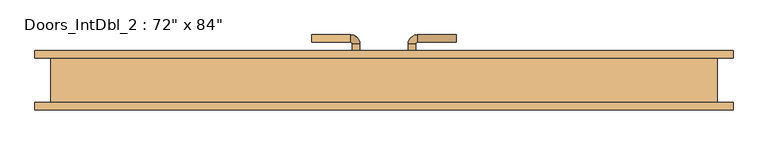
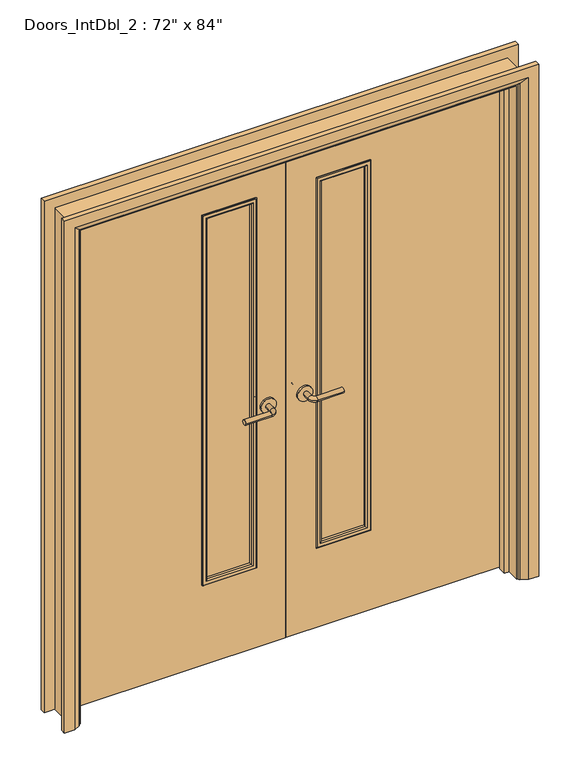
"""IFC4 building model written with IfcOpenShell, lengths in millimetres: door geometry."""

from ifc_helpers import new_model, si_unit, point, frame, frame_2d, origin, place, context, project, spatial, polyline, circle_curve, ellipse_curve, trimmed, segment, composite_curve, outline, extrude, faceted_brep, source, transform, mapped, element, save
from ifc_brep_helpers import plane_surface, cylinder_surface, revolved_surface, advanced_brep


def door_e444c484(model_context):
    return source(origin(), model_context, "Body", "SolidModel", [
        advanced_brep(
        [(-65.0, 20.0, 1007.0), (-85.0, 20.0, 1007.0), (-65.0, -10.0, 1007.0), (-85.0, -10.0, 1007.0), (-90.0, -15.0, 1007.0), (-90.0, -35.0, 1007.0), (-195.0, -35.0, 1007.0), (-195.0, -15.0, 1007.0)],
        [
            (0, 1, circle_curve(frame((-75.0, 20.0, 1007.0), z_axis=(0.0, 1.0, 0.0), x_axis=(-1.0, 0.0, 0.0)), 10.0)),
            (1, 0, circle_curve(frame((-75.0, 20.0, 1007.0), z_axis=(0.0, 1.0, 0.0), x_axis=(-1.0, 0.0, 0.0)), 10.0)),
            (0, 2),
            (2, 3, circle_curve(frame((-75.0, -10.0, 1007.0), z_axis=(0.0, 1.0, 0.0), x_axis=(-1.0, 0.0, 0.0)), 10.0)),
            (3, 1),
            (3, 2, circle_curve(frame((-75.0, -10.0, 1007.0), z_axis=(0.0, 1.0, 0.0), x_axis=(-1.0, 0.0, 0.0)), 10.0)),
            (4, 3, circle_curve(frame((-90.0, -10.0, 1007.0), z_axis=(0.0, 0.0, 1.0), x_axis=(1.0, 0.0, 0.0)), 5.0)),
            (2, 5, circle_curve(frame((-90.0, -10.0, 1007.0), z_axis=(0.0, 0.0, -1.0), x_axis=(1.0, 0.0, 0.0)), 25.0)),
            (5, 4, circle_curve(frame((-90.0, -25.0, 1007.0), z_axis=(1.0, 0.0, 0.0), x_axis=(0.0, 1.0, 0.0)), 10.0)),
            (4, 5, circle_curve(frame((-90.0, -25.0, 1007.0), z_axis=(1.0, 0.0, 0.0), x_axis=(0.0, 1.0, 0.0)), 10.0)),
            (6, 7, circle_curve(frame((-195.0, -25.0, 1007.0), z_axis=(-1.0, 0.0, 0.0), x_axis=(0.0, 1.0, 0.0)), 10.0)),
            (7, 6, circle_curve(frame((-195.0, -25.0, 1007.0), z_axis=(-1.0, 0.0, 0.0), x_axis=(0.0, 1.0, 0.0)), 10.0)),
            (5, 6),
            (7, 4),
        ],
        [
            plane_surface(frame((-75.0, 20.0, 1007.0), z_axis=(0.0, 1.0, 0.0), x_axis=(0.0, 0.0, 1.0))),
            cylinder_surface(frame((-75.0, 20.0, 1007.0), z_axis=(0.0, 1.0, 0.0), x_axis=(-1.0, 0.0, 0.0)), 10.0),
            revolved_surface(trimmed(ellipse_curve(frame((-75.0, -10.0, 1007.0), z_axis=(0.0, 1.0, 0.0), x_axis=(-1.0, 0.0, 0.0)), 10.0, 10.0), [point((-65.0, -10.0, 1007.0))], [point((-85.0, -10.0, 1007.0))], True, "CARTESIAN"), (-90.0, -10.0, 1007.0), (0.0, 0.0, -1.0)),
            revolved_surface(trimmed(ellipse_curve(frame((-75.0, -10.0, 1007.0), z_axis=(0.0, 1.0, 0.0), x_axis=(-1.0, 0.0, 0.0)), 10.0, 10.0), [point((-85.0, -10.0, 1007.0))], [point((-65.0, -10.0, 1007.0))], True, "CARTESIAN"), (-90.0, -10.0, 1007.0), (0.0, 0.0, -1.0)),
            plane_surface(frame((-195.0, -25.0, 1007.0), z_axis=(-1.0, 0.0, 0.0), x_axis=(0.0, 0.0, 1.0))),
            cylinder_surface(frame((-90.0, -25.0, 1007.0), z_axis=(1.0, 0.0, 0.0), x_axis=(0.0, 1.0, 0.0)), 10.0),
        ],
        [
            (0, [[1, 2]]),
            (1, [[-1, 3, 4, 5]]),
            (1, [[-2, -5, 6, -3]]),
            (2, [[7, -4, 8, 9]]),
            (3, [[-8, -6, -7, 10]]),
            (4, [[11, 12]]),
            (5, [[-9, 13, -12, 14]]),
            (5, [[-10, -14, -11, -13]]),
        ],
    ),
        extrude(outline(composite_curve([segment(trimmed(circle_curve(frame_2d((1007.0, -72.5)), 30.0), [point((1007.0, -42.5))], [point((1007.0, -102.5))], False, "CARTESIAN"), True, "CONTINUOUS"), segment(trimmed(circle_curve(frame_2d((1007.0, -72.5)), 30.0), [point((1007.0, -102.5))], [point((1007.0, -42.5))], False, "CARTESIAN"), True, "CONTINUOUS")], self_intersect=False)), frame((0.0, 20.0, 0.0), z_axis=(0.0, 1.0, 0.0), x_axis=(0.0, 0.0, 1.0)), (0.0, 0.0, 1.0), 8.0),
        advanced_brep(
        [(-65.0, 68.0, 1007.0), (-85.0, 68.0, 1007.0), (-85.0, 98.0, 1007.0), (-65.0, 98.0, 1007.0), (-90.0, 103.0, 1007.0), (-90.0, 123.0, 1007.0), (-195.0, 123.0, 1007.0), (-195.0, 103.0, 1007.0)],
        [
            (0, 1, circle_curve(frame((-75.0, 68.0, 1007.0), z_axis=(0.0, -1.0, 0.0), x_axis=(-1.0, 0.0, 0.0)), 10.0)),
            (1, 0, circle_curve(frame((-75.0, 68.0, 1007.0), z_axis=(0.0, -1.0, 0.0), x_axis=(-1.0, 0.0, 0.0)), 10.0)),
            (1, 2),
            (2, 3, circle_curve(frame((-75.0, 98.0, 1007.0), z_axis=(0.0, -1.0, 0.0), x_axis=(-1.0, 0.0, 0.0)), 10.0)),
            (3, 0),
            (3, 2, circle_curve(frame((-75.0, 98.0, 1007.0), z_axis=(0.0, -1.0, 0.0), x_axis=(-1.0, 0.0, 0.0)), 10.0)),
            (4, 5, circle_curve(frame((-90.0, 113.0, 1007.0), z_axis=(1.0, 0.0, 0.0), x_axis=(0.0, -1.0, 0.0)), 10.0)),
            (5, 3, circle_curve(frame((-90.0, 98.0, 1007.0), z_axis=(0.0, 0.0, -1.0), x_axis=(1.0, 0.0, 0.0)), 25.0)),
            (2, 4, circle_curve(frame((-90.0, 98.0, 1007.0), z_axis=(0.0, 0.0, 1.0), x_axis=(1.0, 0.0, 0.0)), 5.0)),
            (5, 4, circle_curve(frame((-90.0, 113.0, 1007.0), z_axis=(1.0, 0.0, 0.0), x_axis=(0.0, -1.0, 0.0)), 10.0)),
            (6, 7, circle_curve(frame((-195.0, 113.0, 1007.0), z_axis=(-1.0, 0.0, 0.0), x_axis=(0.0, -1.0, 0.0)), 10.0)),
            (7, 6, circle_curve(frame((-195.0, 113.0, 1007.0), z_axis=(-1.0, 0.0, 0.0), x_axis=(0.0, -1.0, 0.0)), 10.0)),
            (4, 7),
            (6, 5),
        ],
        [
            plane_surface(frame((-75.0, 68.0, 1007.0), z_axis=(0.0, -1.0, 0.0), x_axis=(0.0, 0.0, 1.0))),
            cylinder_surface(frame((-75.0, 68.0, 1007.0), z_axis=(0.0, -1.0, 0.0), x_axis=(-1.0, 0.0, 0.0)), 10.0),
            revolved_surface(trimmed(ellipse_curve(frame((-75.0, 98.0, 1007.0), z_axis=(0.0, 1.0, 0.0), x_axis=(-1.0, 0.0, 0.0)), 10.0, 10.0), [point((-65.0, 98.0, 1007.0))], [point((-85.0, 98.0, 1007.0))], True, "CARTESIAN"), (-90.0, 98.0, 1007.0), (0.0, 0.0, -1.0)),
            revolved_surface(trimmed(ellipse_curve(frame((-75.0, 98.0, 1007.0), z_axis=(0.0, 1.0, 0.0), x_axis=(-1.0, 0.0, 0.0)), 10.0, 10.0), [point((-85.0, 98.0, 1007.0))], [point((-65.0, 98.0, 1007.0))], True, "CARTESIAN"), (-90.0, 98.0, 1007.0), (0.0, 0.0, -1.0)),
            plane_surface(frame((-195.0, 113.0, 1007.0), z_axis=(-1.0, 0.0, 0.0), x_axis=(0.0, 0.0, 1.0))),
            cylinder_surface(frame((-90.0, 113.0, 1007.0), z_axis=(1.0, 0.0, 0.0), x_axis=(0.0, -1.0, 0.0)), 10.0),
        ],
        [
            (0, [[1, 2]]),
            (1, [[3, 4, 5, -2]]),
            (1, [[-5, 6, -3, -1]]),
            (2, [[7, 8, -4, 9]]),
            (3, [[10, -9, -6, -8]]),
            (4, [[11, 12]]),
            (5, [[13, -11, 14, -7]]),
            (5, [[-14, -12, -13, -10]]),
        ],
    ),
        extrude(outline(composite_curve([segment(trimmed(circle_curve(frame_2d((1007.0, -72.5)), 30.0), [point((1007.0, -42.5))], [point((1007.0, -102.5))], False, "CARTESIAN"), True, "CONTINUOUS"), segment(trimmed(circle_curve(frame_2d((1007.0, -72.5)), 30.0), [point((1007.0, -102.5))], [point((1007.0, -42.5))], False, "CARTESIAN"), True, "CONTINUOUS")], self_intersect=False)), frame((0.0, 60.0, 0.0), z_axis=(0.0, 1.0, 0.0), x_axis=(0.0, 0.0, 1.0)), (0.0, 0.0, 1.0), 8.0),
        advanced_brep(
        [(65.0, 20.0, 1007.0), (85.0, 20.0, 1007.0), (85.0, -10.0, 1007.0), (65.0, -10.0, 1007.0), (90.0, -15.0, 1007.0), (90.0, -35.0, 1007.0), (195.0, -35.0, 1007.0), (195.0, -15.0, 1007.0)],
        [
            (0, 1, circle_curve(frame((75.0, 20.0, 1007.0), z_axis=(0.0, 1.0, 0.0), x_axis=(1.0, 0.0, 0.0)), 10.0)),
            (1, 0, circle_curve(frame((75.0, 20.0, 1007.0), z_axis=(0.0, 1.0, 0.0), x_axis=(1.0, 0.0, 0.0)), 10.0)),
            (1, 2),
            (2, 3, circle_curve(frame((75.0, -10.0, 1007.0), z_axis=(0.0, 1.0, 0.0), x_axis=(1.0, 0.0, 0.0)), 10.0)),
            (3, 0),
            (3, 2, circle_curve(frame((75.0, -10.0, 1007.0), z_axis=(0.0, 1.0, 0.0), x_axis=(1.0, 0.0, 0.0)), 10.0)),
            (4, 5, circle_curve(frame((90.0, -25.0, 1007.0), z_axis=(-1.0, 0.0, 0.0), x_axis=(0.0, 1.0, 0.0)), 10.0)),
            (5, 3, circle_curve(frame((90.0, -10.0, 1007.0), z_axis=(0.0, 0.0, -1.0), x_axis=(-1.0, 0.0, 0.0)), 25.0)),
            (2, 4, circle_curve(frame((90.0, -10.0, 1007.0), z_axis=(0.0, 0.0, 1.0), x_axis=(-1.0, 0.0, 0.0)), 5.0)),
            (5, 4, circle_curve(frame((90.0, -25.0, 1007.0), z_axis=(-1.0, 0.0, 0.0), x_axis=(0.0, 1.0, 0.0)), 10.0)),
            (6, 7, circle_curve(frame((195.0, -25.0, 1007.0), z_axis=(1.0, 0.0, 0.0), x_axis=(0.0, 1.0, 0.0)), 10.0)),
            (7, 6, circle_curve(frame((195.0, -25.0, 1007.0), z_axis=(1.0, 0.0, 0.0), x_axis=(0.0, 1.0, 0.0)), 10.0)),
            (4, 7),
            (6, 5),
        ],
        [
            plane_surface(frame((75.0, 20.0, 1007.0), z_axis=(0.0, 1.0, 0.0), x_axis=(0.0, 0.0, 1.0))),
            cylinder_surface(frame((75.0, 20.0, 1007.0), z_axis=(0.0, 1.0, 0.0), x_axis=(1.0, 0.0, 0.0)), 10.0),
            revolved_surface(trimmed(ellipse_curve(frame((75.0, -10.0, 1007.0), z_axis=(0.0, -1.0, 0.0), x_axis=(1.0, 0.0, 0.0)), 10.0, 10.0), [point((65.0, -10.0, 1007.0))], [point((85.0, -10.0, 1007.0))], True, "CARTESIAN"), (90.0, -10.0, 1007.0), (0.0, 0.0, -1.0)),
            revolved_surface(trimmed(ellipse_curve(frame((75.0, -10.0, 1007.0), z_axis=(0.0, -1.0, 0.0), x_axis=(1.0, 0.0, 0.0)), 10.0, 10.0), [point((85.0, -10.0, 1007.0))], [point((65.0, -10.0, 1007.0))], True, "CARTESIAN"), (90.0, -10.0, 1007.0), (0.0, 0.0, -1.0)),
            plane_surface(frame((195.0, -25.0, 1007.0), z_axis=(1.0, 0.0, 0.0), x_axis=(0.0, 0.0, 1.0))),
            cylinder_surface(frame((90.0, -25.0, 1007.0), z_axis=(-1.0, 0.0, 0.0), x_axis=(0.0, 1.0, 0.0)), 10.0),
        ],
        [
            (0, [[1, 2]]),
            (1, [[3, 4, 5, -2]]),
            (1, [[-5, 6, -3, -1]]),
            (2, [[7, 8, -4, 9]]),
            (3, [[10, -9, -6, -8]]),
            (4, [[11, 12]]),
            (5, [[13, -11, 14, -7]]),
            (5, [[-14, -12, -13, -10]]),
        ],
    ),
        extrude(outline(composite_curve([segment(trimmed(circle_curve(frame_2d((1007.0, 72.5)), 30.0), [point((1007.0, 42.5))], [point((1007.0, 102.5))], False, "CARTESIAN"), True, "CONTINUOUS"), segment(trimmed(circle_curve(frame_2d((1007.0, 72.5)), 30.0), [point((1007.0, 102.5))], [point((1007.0, 42.5))], False, "CARTESIAN"), True, "CONTINUOUS")], self_intersect=False)), frame((0.0, 20.0, 0.0), z_axis=(0.0, 1.0, 0.0), x_axis=(0.0, 0.0, 1.0)), (0.0, 0.0, 1.0), 8.0),
        advanced_brep(
        [(65.0, 68.0, 1007.0), (85.0, 68.0, 1007.0), (65.0, 98.0, 1007.0), (85.0, 98.0, 1007.0), (90.0, 103.0, 1007.0), (90.0, 123.0, 1007.0), (195.0, 123.0, 1007.0), (195.0, 103.0, 1007.0)],
        [
            (0, 1, circle_curve(frame((75.0, 68.0, 1007.0), z_axis=(0.0, -1.0, 0.0), x_axis=(1.0, 0.0, 0.0)), 10.0)),
            (1, 0, circle_curve(frame((75.0, 68.0, 1007.0), z_axis=(0.0, -1.0, 0.0), x_axis=(1.0, 0.0, 0.0)), 10.0)),
            (0, 2),
            (2, 3, circle_curve(frame((75.0, 98.0, 1007.0), z_axis=(0.0, -1.0, 0.0), x_axis=(1.0, 0.0, 0.0)), 10.0)),
            (3, 1),
            (3, 2, circle_curve(frame((75.0, 98.0, 1007.0), z_axis=(0.0, -1.0, 0.0), x_axis=(1.0, 0.0, 0.0)), 10.0)),
            (4, 3, circle_curve(frame((90.0, 98.0, 1007.0), z_axis=(0.0, 0.0, 1.0), x_axis=(-1.0, 0.0, 0.0)), 5.0)),
            (2, 5, circle_curve(frame((90.0, 98.0, 1007.0), z_axis=(0.0, 0.0, -1.0), x_axis=(-1.0, 0.0, 0.0)), 25.0)),
            (5, 4, circle_curve(frame((90.0, 113.0, 1007.0), z_axis=(-1.0, 0.0, 0.0), x_axis=(0.0, -1.0, 0.0)), 10.0)),
            (4, 5, circle_curve(frame((90.0, 113.0, 1007.0), z_axis=(-1.0, 0.0, 0.0), x_axis=(0.0, -1.0, 0.0)), 10.0)),
            (6, 7, circle_curve(frame((195.0, 113.0, 1007.0), z_axis=(1.0, 0.0, 0.0), x_axis=(0.0, -1.0, 0.0)), 10.0)),
            (7, 6, circle_curve(frame((195.0, 113.0, 1007.0), z_axis=(1.0, 0.0, 0.0), x_axis=(0.0, -1.0, 0.0)), 10.0)),
            (5, 6),
            (7, 4),
        ],
        [
            plane_surface(frame((75.0, 68.0, 1007.0), z_axis=(0.0, -1.0, 0.0), x_axis=(0.0, 0.0, 1.0))),
            cylinder_surface(frame((75.0, 68.0, 1007.0), z_axis=(0.0, -1.0, 0.0), x_axis=(1.0, 0.0, 0.0)), 10.0),
            revolved_surface(trimmed(ellipse_curve(frame((75.0, 98.0, 1007.0), z_axis=(0.0, -1.0, 0.0), x_axis=(1.0, 0.0, 0.0)), 10.0, 10.0), [point((65.0, 98.0, 1007.0))], [point((85.0, 98.0, 1007.0))], True, "CARTESIAN"), (90.0, 98.0, 1007.0), (0.0, 0.0, -1.0)),
            revolved_surface(trimmed(ellipse_curve(frame((75.0, 98.0, 1007.0), z_axis=(0.0, -1.0, 0.0), x_axis=(1.0, 0.0, 0.0)), 10.0, 10.0), [point((85.0, 98.0, 1007.0))], [point((65.0, 98.0, 1007.0))], True, "CARTESIAN"), (90.0, 98.0, 1007.0), (0.0, 0.0, -1.0)),
            plane_surface(frame((195.0, 113.0, 1007.0), z_axis=(1.0, 0.0, 0.0), x_axis=(0.0, 0.0, 1.0))),
            cylinder_surface(frame((90.0, 113.0, 1007.0), z_axis=(-1.0, 0.0, 0.0), x_axis=(0.0, -1.0, 0.0)), 10.0),
        ],
        [
            (0, [[1, 2]]),
            (1, [[-1, 3, 4, 5]]),
            (1, [[-2, -5, 6, -3]]),
            (2, [[7, -4, 8, 9]]),
            (3, [[-8, -6, -7, 10]]),
            (4, [[11, 12]]),
            (5, [[-9, 13, -12, 14]]),
            (5, [[-10, -14, -11, -13]]),
        ],
    ),
        extrude(outline(composite_curve([segment(trimmed(circle_curve(frame_2d((1007.0, 72.5)), 30.0), [point((1007.0, 42.5))], [point((1007.0, 102.5))], False, "CARTESIAN"), True, "CONTINUOUS"), segment(trimmed(circle_curve(frame_2d((1007.0, 72.5)), 30.0), [point((1007.0, 102.5))], [point((1007.0, 42.5))], False, "CARTESIAN"), True, "CONTINUOUS")], self_intersect=False)), frame((0.0, 60.0, 0.0), z_axis=(0.0, 1.0, 0.0), x_axis=(0.0, 0.0, 1.0)), (0.0, 0.0, 1.0), 8.0),
        advanced_brep(
        [(-940.0, -80.0, 0.0), (-940.0, -60.0, 0.0), (-870.0, -60.0, 0.0), (-874.0, -66.0, 0.0), (-900.0, -80.0, 0.0), (-940.0, -80.0, 2145.0), (-940.0, -60.0, 2145.0), (940.0, -60.0, 2145.0), (940.0, -60.0, 0.0), (870.0, -60.0, 0.0), (870.0, -60.0, 2075.0), (-870.0, -60.0, 2075.0), (-874.0, -66.0, 2079.0), (-900.0, -80.0, 2105.0), (900.0, -80.0, 2105.0), (900.0, -80.0, 0.0), (940.0, -80.0, 0.0), (940.0, -80.0, 2145.0), (874.0, -66.0, 0.0), (874.0, -66.0, 2079.0)],
        [
            (0, 1),
            (1, 2),
            (2, 3, circle_curve(frame((-878.0, -59.0, 0.0), z_axis=(0.0, 0.0, -1.0), x_axis=(-1.0, 0.0, 0.0)), 8.0622577)),
            (3, 4),
            (4, 0),
            (0, 5),
            (5, 6),
            (6, 1),
            (6, 7),
            (7, 8),
            (8, 9),
            (9, 10),
            (10, 11),
            (11, 2),
            (11, 12, ellipse_curve(frame((-878.0, -59.0, 2083.0), z_axis=(-0.7071067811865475, 0.0, -0.7071067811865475), x_axis=(0.7071067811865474, 0.0, -0.7071067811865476)), 11.4017543, 8.0622577)),
            (12, 3),
            (12, 13),
            (13, 4),
            (13, 14),
            (14, 15),
            (15, 16),
            (16, 17),
            (17, 5),
            (7, 17),
            (16, 8),
            (15, 18),
            (18, 9, circle_curve(frame((878.0, -59.0, 0.0), z_axis=(0.0, 0.0, -1.0), x_axis=(1.0, 0.0, 0.0)), 8.0622577)),
            (19, 10, ellipse_curve(frame((878.0, -59.0, 2083.0), z_axis=(0.7071067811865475, 0.0, -0.7071067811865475), x_axis=(0.7071067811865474, 0.0, 0.7071067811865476)), 11.4017543, 8.0622577)),
            (18, 19),
            (14, 19),
            (19, 12),
        ],
        [
            plane_surface(frame((-870.0, -60.0, 0.0), z_axis=(0.0, 0.0, -1.0), x_axis=(0.0, -1.0, 0.0))),
            plane_surface(frame((-940.0, -80.0, 0.0), z_axis=(-1.0, 0.0, 0.0), x_axis=(0.0, 0.0, 1.0))),
            plane_surface(frame((-940.0, -60.0, 0.0), z_axis=(0.0, 1.0, 0.0), x_axis=(0.0, 0.0, 1.0))),
            cylinder_surface(frame((-878.0, -59.0, 0.0), z_axis=(0.0, 0.0, -1.0), x_axis=(-1.0, 0.0, 0.0)), 8.0622577),
            plane_surface(frame((-874.0, -66.0, 0.0), z_axis=(0.4740998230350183, -0.8804710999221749, 0.0), x_axis=(0.0, 0.0, 1.0))),
            plane_surface(frame((-900.0, -80.0, 0.0), z_axis=(0.0, -1.0, 0.0), x_axis=(0.0, 0.0, 1.0))),
            plane_surface(frame((940.0, -80.0, 2145.0), z_axis=(1.0, 0.0, 0.0), x_axis=(0.0, 0.0, -1.0))),
            plane_surface(frame((870.0, -60.0, 0.0), z_axis=(0.0, 0.0, -1.0), x_axis=(0.0, -1.0, 0.0))),
            cylinder_surface(frame((878.0, -59.0, 2075.0), z_axis=(0.0, 0.0, 1.0), x_axis=(1.0, 0.0, 0.0)), 8.0622577),
            plane_surface(frame((874.0, -66.0, 2079.0), z_axis=(-0.4740998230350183, -0.8804710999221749, 0.0), x_axis=(0.0, 0.0, -1.0))),
            plane_surface(frame((-940.0, -80.0, 2145.0), z_axis=(0.0, 0.0, 1.0), x_axis=(1.0, 0.0, 0.0))),
            cylinder_surface(frame((-870.0, -59.0, 2083.0), z_axis=(-1.0, 0.0, 0.0), x_axis=(0.0, 0.0, 1.0)), 8.0622577),
            plane_surface(frame((-874.0, -66.0, 2079.0), z_axis=(0.0, -0.8804710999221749, -0.4740998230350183), x_axis=(1.0, 0.0, 0.0))),
        ],
        [
            (0, [[1, 2, 3, 4, 5]]),
            (1, [[-1, 6, 7, 8]]),
            (2, [[-2, -8, 9, 10, 11, 12, 13, 14]]),
            (3, [[-3, -14, 15, 16]]),
            (4, [[-4, -16, 17, 18]]),
            (5, [[-5, -18, 19, 20, 21, 22, 23, -6]]),
            (6, [[24, -22, 25, -10]]),
            (7, [[-21, 26, 27, -11, -25]]),
            (8, [[28, -12, -27, 29]]),
            (9, [[30, -29, -26, -20]]),
            (10, [[-7, -23, -24, -9]]),
            (11, [[-15, -13, -28, 31]]),
            (12, [[-17, -31, -30, -19]]),
        ],
    ),
        advanced_brep(
        [(940.0, 80.0, 0.0), (940.0, 60.0, 0.0), (870.0, 60.0, 0.0), (874.0, 66.0, 0.0), (900.0, 80.0, 0.0), (940.0, 80.0, 2145.0), (940.0, 60.0, 2145.0), (-940.0, 60.0, 2145.0), (-940.0, 60.0, 0.0), (-870.0, 60.0, 0.0), (-870.0, 60.0, 2075.0), (870.0, 60.0, 2075.0), (874.0, 66.0, 2079.0), (900.0, 80.0, 2105.0), (-900.0, 80.0, 2105.0), (-900.0, 80.0, 0.0), (-940.0, 80.0, 0.0), (-940.0, 80.0, 2145.0), (-874.0, 66.0, 0.0), (-874.0, 66.0, 2079.0)],
        [
            (0, 1),
            (1, 2),
            (2, 3, circle_curve(frame((878.0, 59.0, 0.0), z_axis=(0.0, 0.0, -1.0), x_axis=(1.0, 0.0, 0.0)), 8.0622577)),
            (3, 4),
            (4, 0),
            (0, 5),
            (5, 6),
            (6, 1),
            (6, 7),
            (7, 8),
            (8, 9),
            (9, 10),
            (10, 11),
            (11, 2),
            (11, 12, ellipse_curve(frame((878.0, 59.0, 2083.0), z_axis=(0.7071067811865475, 0.0, -0.7071067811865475), x_axis=(-0.7071067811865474, 0.0, -0.7071067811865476)), 11.4017543, 8.0622577)),
            (12, 3),
            (12, 13),
            (13, 4),
            (13, 14),
            (14, 15),
            (15, 16),
            (16, 17),
            (17, 5),
            (7, 17),
            (16, 8),
            (15, 18),
            (18, 9, circle_curve(frame((-878.0, 59.0, 0.0), z_axis=(0.0, 0.0, -1.0), x_axis=(-1.0, 0.0, 0.0)), 8.0622577)),
            (19, 10, ellipse_curve(frame((-878.0, 59.0, 2083.0), z_axis=(-0.7071067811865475, 0.0, -0.7071067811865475), x_axis=(-0.7071067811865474, 0.0, 0.7071067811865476)), 11.4017543, 8.0622577)),
            (18, 19),
            (14, 19),
            (19, 12),
        ],
        [
            plane_surface(frame((870.0, 60.0, 0.0), z_axis=(0.0, 0.0, -1.0), x_axis=(0.0, -1.0, 0.0))),
            plane_surface(frame((940.0, 80.0, 0.0), z_axis=(1.0, 0.0, 0.0), x_axis=(0.0, 0.0, 1.0))),
            plane_surface(frame((940.0, 60.0, 0.0), z_axis=(0.0, -1.0, 0.0), x_axis=(0.0, 0.0, 1.0))),
            cylinder_surface(frame((878.0, 59.0, 0.0), z_axis=(0.0, 0.0, -1.0), x_axis=(1.0, 0.0, 0.0)), 8.0622577),
            plane_surface(frame((874.0, 66.0, 0.0), z_axis=(-0.4740998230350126, 0.8804710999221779, 0.0), x_axis=(0.0, 0.0, 1.0))),
            plane_surface(frame((900.0, 80.0, 0.0), z_axis=(0.0, 1.0, 0.0), x_axis=(0.0, 0.0, 1.0))),
            plane_surface(frame((-940.0, 80.0, 2145.0), z_axis=(-1.0, 0.0, 0.0), x_axis=(0.0, 0.0, -1.0))),
            plane_surface(frame((-870.0, 60.0, 0.0), z_axis=(0.0, 0.0, -1.0), x_axis=(0.0, -1.0, 0.0))),
            cylinder_surface(frame((-878.0, 59.0, 2075.0), z_axis=(0.0, 0.0, 1.0), x_axis=(-1.0, 0.0, 0.0)), 8.0622577),
            plane_surface(frame((-874.0, 66.0, 2079.0), z_axis=(0.4740998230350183, 0.8804710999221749, 0.0), x_axis=(0.0, 0.0, -1.0))),
            plane_surface(frame((940.0, 80.0, 2145.0), z_axis=(0.0, 0.0, 1.0), x_axis=(-1.0, 0.0, 0.0))),
            cylinder_surface(frame((870.0, 59.0, 2083.0), z_axis=(1.0, 0.0, 0.0), x_axis=(0.0, 0.0, 1.0)), 8.0622577),
            plane_surface(frame((874.0, 66.0, 2079.0), z_axis=(0.0, 0.8804710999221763, -0.4740998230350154), x_axis=(-1.0, 0.0, 0.0))),
        ],
        [
            (0, [[1, 2, 3, 4, 5]]),
            (1, [[-1, 6, 7, 8]]),
            (2, [[-2, -8, 9, 10, 11, 12, 13, 14]]),
            (3, [[-3, -14, 15, 16]]),
            (4, [[-4, -16, 17, 18]]),
            (5, [[-5, -18, 19, 20, 21, 22, 23, -6]]),
            (6, [[24, -22, 25, -10]]),
            (7, [[-21, 26, 27, -11, -25]]),
            (8, [[28, -12, -27, 29]]),
            (9, [[30, -29, -26, -20]]),
            (10, [[-7, -23, -24, -9]]),
            (11, [[-15, -13, -28, 31]]),
            (12, [[-17, -31, -30, -19]]),
        ],
    ),
        faceted_brep([(-846.0, 25.0, 0.0), (-846.0, -7.0, 0.0), (-865.0, -7.0, 0.0), (-865.0, 25.0, 0.0), (-846.0, 25.0, 2051.0), (-846.0, -7.0, 2051.0), (-865.0, -7.0, 2070.0), (-865.0, 25.0, 2070.0), (846.0, 25.0, 0.0), (865.0, 25.0, 0.0), (865.0, -7.0, 0.0), (846.0, -7.0, 0.0), (846.0, 25.0, 2051.0), (865.0, 25.0, 2070.0), (865.0, -7.0, 2070.0), (846.0, -7.0, 2051.0)], [[[0, 1, 2, 3]], [[1, 0, 4, 5]], [[2, 1, 5, 6]], [[3, 2, 6, 7]], [[0, 3, 7, 4]], [[8, 9, 10, 11]], [[12, 13, 9, 8]], [[13, 14, 10, 9]], [[14, 15, 11, 10]], [[15, 12, 8, 11]], [[5, 4, 12, 15]], [[6, 5, 15, 14]], [[7, 6, 14, 13]], [[4, 7, 13, 12]]]),
        extrude(outline(polyline([(2102.0, -897.0), (0.0, -897.0), (0.0, -865.0), (2070.0, -865.0), (2070.0, 865.0), (0.0, 865.0), (0.0, 897.0), (2102.0, 897.0), (2102.0, -897.0)])), frame((0.0, -60.0, 0.0), z_axis=(0.0, 1.0, 0.0), x_axis=(0.0, 0.0, 1.0)), (0.0, 0.0, 1.0), 120.0),
        extrude(outline(polyline([(326.5, 38.0), (126.5, 38.0), (126.5, 50.0), (326.5, 50.0), (326.5, 38.0)])), frame((0.0, 0.0, 350.0), z_axis=(0.0, 0.0, 1.0), x_axis=(1.0, 0.0, 0.0)), (0.0, 0.0, 1.0), 1535.0),
        extrude(outline(polyline([(-126.5, 38.0), (-326.5, 38.0), (-326.5, 50.0), (-126.5, 50.0), (-126.5, 38.0)])), frame((0.0, 0.0, 350.0), z_axis=(0.0, 0.0, 1.0), x_axis=(1.0, 0.0, 0.0)), (0.0, 0.0, 1.0), 1535.0),
        extrude(outline(polyline([(5.753223, -862.0), (5.753223, -1.5), (2067.0, -1.5), (2067.0, -862.0), (5.753223, -862.0)]), holes=[polyline([(1885.0, -326.5), (1885.0, -126.5), (350.0, -126.5), (350.0, -326.5), (1885.0, -326.5)])]), frame((0.0, 28.0, 0.0), z_axis=(0.0, 1.0, 0.0), x_axis=(0.0, 0.0, 1.0)), (0.0, 0.0, 1.0), 32.0),
        extrude(outline(polyline([(5.753223, 862.0), (2067.0, 862.0), (2067.0, 1.5), (5.753223, 1.5), (5.753223, 862.0)]), holes=[polyline([(1885.0, 126.5), (1885.0, 326.5), (350.0, 326.5), (350.0, 126.5), (1885.0, 126.5)])]), frame((0.0, 28.0, 0.0), z_axis=(0.0, 1.0, 0.0), x_axis=(0.0, 0.0, 1.0)), (0.0, 0.0, 1.0), 32.0),
        advanced_brep(
        [(326.5, 38.0, 1885.0), (326.5, 28.0, 1885.0), (326.5, 28.0, 350.0), (326.5, 38.0, 350.0), (314.5, 27.0, 1873.0), (314.5, 38.0, 1873.0), (314.5, 38.0, 362.0), (314.5, 27.0, 362.0), (319.5, 22.0, 1878.0), (319.5, 22.0, 357.0), (334.5, 24.0, 1893.0), (332.5, 22.0, 1891.0), (332.5, 22.0, 344.0), (334.5, 24.0, 342.0), (334.5, 28.0, 1893.0), (334.5, 28.0, 342.0), (126.5, 28.0, 350.0), (126.5, 38.0, 350.0), (138.5, 38.0, 362.0), (138.5, 27.0, 362.0), (133.5, 22.0, 357.0), (120.5, 22.0, 344.0), (118.5, 24.0, 342.0), (118.5, 28.0, 342.0), (126.5, 28.0, 1885.0), (126.5, 38.0, 1885.0), (138.5, 38.0, 1873.0), (138.5, 27.0, 1873.0), (133.5, 22.0, 1878.0), (120.5, 22.0, 1891.0), (118.5, 24.0, 1893.0), (118.5, 28.0, 1893.0)],
        [
            (0, 1),
            (1, 2),
            (2, 3),
            (3, 0),
            (4, 5),
            (5, 6),
            (6, 7),
            (7, 4),
            (8, 4, ellipse_curve(frame((319.5, 27.0, 1878.0), z_axis=(0.7071067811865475, 0.0, -0.7071067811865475), x_axis=(0.7071067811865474, 0.0, 0.7071067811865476)), 7.0710678, 5.0)),
            (7, 9, ellipse_curve(frame((319.5, 27.0, 357.0), z_axis=(0.7071067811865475, 0.0, 0.7071067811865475), x_axis=(-0.7071067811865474, 0.0, 0.7071067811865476)), 7.0710678, 5.0)),
            (9, 8),
            (10, 11, ellipse_curve(frame((332.5, 24.0, 1891.0), z_axis=(0.7071067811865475, 0.0, -0.7071067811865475), x_axis=(0.7071067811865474, 0.0, 0.7071067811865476)), 2.8284271, 2.0)),
            (11, 12),
            (12, 13, ellipse_curve(frame((332.5, 24.0, 344.0), z_axis=(0.7071067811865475, 0.0, 0.7071067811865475), x_axis=(-0.7071067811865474, 0.0, 0.7071067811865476)), 2.8284271, 2.0)),
            (13, 10),
            (14, 10),
            (13, 15),
            (15, 14),
            (2, 16),
            (16, 17),
            (17, 3),
            (6, 18),
            (18, 19),
            (19, 7),
            (19, 20, ellipse_curve(frame((133.5, 27.0, 357.0), z_axis=(0.7071067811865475, 0.0, -0.7071067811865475), x_axis=(0.7071067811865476, 0.0, 0.7071067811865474)), 7.0710678, 5.0)),
            (20, 9),
            (12, 21),
            (21, 22, ellipse_curve(frame((120.5, 24.0, 344.0), z_axis=(0.7071067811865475, 0.0, -0.7071067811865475), x_axis=(0.7071067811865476, 0.0, 0.7071067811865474)), 2.8284271, 2.0)),
            (22, 13),
            (22, 23),
            (23, 15),
            (16, 24),
            (24, 25),
            (25, 17),
            (18, 26),
            (26, 27),
            (27, 19),
            (27, 28, ellipse_curve(frame((133.5, 27.0, 1878.0), z_axis=(-0.7071067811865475, 0.0, -0.7071067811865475), x_axis=(0.7071067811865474, 0.0, -0.7071067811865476)), 7.0710678, 5.0)),
            (28, 20),
            (21, 29),
            (29, 30, ellipse_curve(frame((120.5, 24.0, 1891.0), z_axis=(-0.7071067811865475, 0.0, -0.7071067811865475), x_axis=(0.7071067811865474, 0.0, -0.7071067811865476)), 2.8284271, 2.0)),
            (30, 22),
            (30, 31),
            (31, 23),
            (31, 14),
            (1, 24),
            (0, 25),
            (5, 26),
            (4, 27),
            (8, 28),
            (11, 29),
            (10, 30),
        ],
        [
            plane_surface(frame((326.5, 28.0, 1885.0), z_axis=(1.0, 0.0, 0.0), x_axis=(0.0, 0.0, -1.0))),
            plane_surface(frame((314.5, 38.0, 1873.0), z_axis=(-1.0, 0.0, 0.0), x_axis=(0.0, 0.0, -1.0))),
            cylinder_surface(frame((319.5, 27.0, 1885.0), z_axis=(0.0, 0.0, 1.0), x_axis=(1.0, 0.0, 0.0)), 5.0),
            cylinder_surface(frame((332.5, 24.0, 1885.0), z_axis=(0.0, 0.0, 1.0), x_axis=(1.0, 0.0, 0.0)), 2.0),
            plane_surface(frame((334.5, 24.0, 1893.0), z_axis=(1.0, 0.0, 0.0), x_axis=(0.0, 0.0, -1.0))),
            plane_surface(frame((326.5, 28.0, 350.0), z_axis=(0.0, 0.0, -1.0), x_axis=(-1.0, 0.0, 0.0))),
            plane_surface(frame((314.5, 38.0, 362.0), z_axis=(0.0, 0.0, 1.0), x_axis=(-1.0, 0.0, 0.0))),
            cylinder_surface(frame((326.5, 27.0, 357.0), z_axis=(1.0, 0.0, 0.0), x_axis=(0.0, 0.0, -1.0)), 5.0),
            cylinder_surface(frame((326.5, 24.0, 344.0), z_axis=(1.0, 0.0, 0.0), x_axis=(0.0, 0.0, -1.0)), 2.0),
            plane_surface(frame((334.5, 24.0, 342.0), z_axis=(0.0, 0.0, -1.0), x_axis=(-1.0, 0.0, 0.0))),
            plane_surface(frame((126.5, 28.0, 350.0), z_axis=(-1.0, 0.0, 0.0), x_axis=(0.0, 0.0, 1.0))),
            plane_surface(frame((138.5, 38.0, 362.0), z_axis=(1.0, 0.0, 0.0), x_axis=(0.0, 0.0, 1.0))),
            cylinder_surface(frame((133.5, 27.0, 350.0), z_axis=(0.0, 0.0, -1.0), x_axis=(-1.0, 0.0, 0.0)), 5.0),
            cylinder_surface(frame((120.5, 24.0, 350.0), z_axis=(0.0, 0.0, -1.0), x_axis=(-1.0, 0.0, 0.0)), 2.0),
            plane_surface(frame((118.5, 24.0, 342.0), z_axis=(-1.0, 0.0, 0.0), x_axis=(0.0, 0.0, 1.0))),
            plane_surface(frame((118.5, 28.0, 1893.0), z_axis=(0.0, 1.0, 0.0), x_axis=(1.0, 0.0, 0.0))),
            plane_surface(frame((126.5, 28.0, 1885.0), z_axis=(0.0, 0.0, 1.0), x_axis=(1.0, 0.0, 0.0))),
            plane_surface(frame((126.5, 38.0, 1885.0), z_axis=(0.0, 1.0, 0.0), x_axis=(1.0, 0.0, 0.0))),
            plane_surface(frame((138.5, 38.0, 1873.0), z_axis=(0.0, 0.0, -1.0), x_axis=(1.0, 0.0, 0.0))),
            cylinder_surface(frame((126.5, 27.0, 1878.0), z_axis=(-1.0, 0.0, 0.0), x_axis=(0.0, 0.0, 1.0)), 5.0),
            plane_surface(frame((133.5, 22.0, 1878.0), z_axis=(0.0, -1.0, 0.0), x_axis=(1.0, 0.0, 0.0))),
            cylinder_surface(frame((126.5, 24.0, 1891.0), z_axis=(-1.0, 0.0, 0.0), x_axis=(0.0, 0.0, 1.0)), 2.0),
            plane_surface(frame((118.5, 24.0, 1893.0), z_axis=(0.0, 0.0, 1.0), x_axis=(1.0, 0.0, 0.0))),
        ],
        [
            (0, [[1, 2, 3, 4]]),
            (1, [[5, 6, 7, 8]]),
            (2, [[9, -8, 10, 11]]),
            (3, [[12, 13, 14, 15]]),
            (4, [[16, -15, 17, 18]]),
            (5, [[-3, 19, 20, 21]]),
            (6, [[-7, 22, 23, 24]]),
            (7, [[-10, -24, 25, 26]]),
            (8, [[-14, 27, 28, 29]]),
            (9, [[-17, -29, 30, 31]]),
            (10, [[-20, 32, 33, 34]]),
            (11, [[-23, 35, 36, 37]]),
            (12, [[-25, -37, 38, 39]]),
            (13, [[-28, 40, 41, 42]]),
            (14, [[-30, -42, 43, 44]]),
            (15, [[-31, -44, 45, -18], [46, -32, -19, -2]]),
            (16, [[-33, -46, -1, 47]]),
            (17, [[-21, -34, -47, -4], [48, -35, -22, -6]]),
            (18, [[-36, -48, -5, 49]]),
            (19, [[-38, -49, -9, 50]]),
            (20, [[51, -40, -27, -13], [-26, -39, -50, -11]]),
            (21, [[-41, -51, -12, 52]]),
            (22, [[-43, -52, -16, -45]]),
        ],
    ),
        advanced_brep(
        [(-326.5, 38.0, 350.0), (-326.5, 28.0, 350.0), (-326.5, 28.0, 1885.0), (-326.5, 38.0, 1885.0), (-314.5, 27.0, 362.0), (-314.5, 38.0, 362.0), (-314.5, 38.0, 1873.0), (-314.5, 27.0, 1873.0), (-319.5, 22.0, 357.0), (-319.5, 22.0, 1878.0), (-334.5, 24.0, 342.0), (-332.5, 22.0, 344.0), (-332.5, 22.0, 1891.0), (-334.5, 24.0, 1893.0), (-334.5, 28.0, 342.0), (-334.5, 28.0, 1893.0), (-126.5, 28.0, 1885.0), (-126.5, 38.0, 1885.0), (-138.5, 38.0, 1873.0), (-138.5, 27.0, 1873.0), (-133.5, 22.0, 1878.0), (-120.5, 22.0, 1891.0), (-118.5, 24.0, 1893.0), (-118.5, 28.0, 1893.0), (-126.5, 28.0, 350.0), (-126.5, 38.0, 350.0), (-138.5, 38.0, 362.0), (-138.5, 27.0, 362.0), (-133.5, 22.0, 357.0), (-120.5, 22.0, 344.0), (-118.5, 24.0, 342.0), (-118.5, 28.0, 342.0)],
        [
            (0, 1),
            (1, 2),
            (2, 3),
            (3, 0),
            (4, 5),
            (5, 6),
            (6, 7),
            (7, 4),
            (8, 4, ellipse_curve(frame((-319.5, 27.0, 357.0), z_axis=(-0.7071067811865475, 0.0, 0.7071067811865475), x_axis=(-0.7071067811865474, 0.0, -0.7071067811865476)), 7.0710678, 5.0)),
            (7, 9, ellipse_curve(frame((-319.5, 27.0, 1878.0), z_axis=(-0.7071067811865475, 0.0, -0.7071067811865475), x_axis=(0.7071067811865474, 0.0, -0.7071067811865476)), 7.0710678, 5.0)),
            (9, 8),
            (10, 11, ellipse_curve(frame((-332.5, 24.0, 344.0), z_axis=(-0.7071067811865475, 0.0, 0.7071067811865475), x_axis=(-0.7071067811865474, 0.0, -0.7071067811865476)), 2.8284271, 2.0)),
            (11, 12),
            (12, 13, ellipse_curve(frame((-332.5, 24.0, 1891.0), z_axis=(-0.7071067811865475, 0.0, -0.7071067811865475), x_axis=(0.7071067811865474, 0.0, -0.7071067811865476)), 2.8284271, 2.0)),
            (13, 10),
            (14, 10),
            (13, 15),
            (15, 14),
            (2, 16),
            (16, 17),
            (17, 3),
            (6, 18),
            (18, 19),
            (19, 7),
            (19, 20, ellipse_curve(frame((-133.5, 27.0, 1878.0), z_axis=(-0.7071067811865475, 0.0, 0.7071067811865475), x_axis=(-0.7071067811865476, 0.0, -0.7071067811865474)), 7.0710678, 5.0)),
            (20, 9),
            (12, 21),
            (21, 22, ellipse_curve(frame((-120.5, 24.0, 1891.0), z_axis=(-0.7071067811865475, 0.0, 0.7071067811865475), x_axis=(-0.7071067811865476, 0.0, -0.7071067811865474)), 2.8284271, 2.0)),
            (22, 13),
            (22, 23),
            (23, 15),
            (16, 24),
            (24, 25),
            (25, 17),
            (18, 26),
            (26, 27),
            (27, 19),
            (27, 28, ellipse_curve(frame((-133.5, 27.0, 357.0), z_axis=(0.7071067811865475, 0.0, 0.7071067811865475), x_axis=(-0.7071067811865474, 0.0, 0.7071067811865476)), 7.0710678, 5.0)),
            (28, 20),
            (21, 29),
            (29, 30, ellipse_curve(frame((-120.5, 24.0, 344.0), z_axis=(0.7071067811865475, 0.0, 0.7071067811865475), x_axis=(-0.7071067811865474, 0.0, 0.7071067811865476)), 2.8284271, 2.0)),
            (30, 22),
            (30, 31),
            (31, 23),
            (31, 14),
            (1, 24),
            (0, 25),
            (5, 26),
            (4, 27),
            (8, 28),
            (11, 29),
            (10, 30),
        ],
        [
            plane_surface(frame((-326.5, 28.0, 350.0), z_axis=(-1.0, 0.0, 0.0), x_axis=(0.0, 0.0, 1.0))),
            plane_surface(frame((-314.5, 38.0, 362.0), z_axis=(1.0, 0.0, 0.0), x_axis=(0.0, 0.0, 1.0))),
            cylinder_surface(frame((-319.5, 27.0, 350.0), z_axis=(0.0, 0.0, -1.0), x_axis=(-1.0, 0.0, 0.0)), 5.0),
            cylinder_surface(frame((-332.5, 24.0, 350.0), z_axis=(0.0, 0.0, -1.0), x_axis=(-1.0, 0.0, 0.0)), 2.0),
            plane_surface(frame((-334.5, 24.0, 342.0), z_axis=(-1.0, 0.0, 0.0), x_axis=(0.0, 0.0, 1.0))),
            plane_surface(frame((-326.5, 28.0, 1885.0), z_axis=(0.0, 0.0, 1.0), x_axis=(1.0, 0.0, 0.0))),
            plane_surface(frame((-314.5, 38.0, 1873.0), z_axis=(0.0, 0.0, -1.0), x_axis=(1.0, 0.0, 0.0))),
            cylinder_surface(frame((-326.5, 27.0, 1878.0), z_axis=(-1.0, 0.0, 0.0), x_axis=(0.0, 0.0, 1.0)), 5.0),
            cylinder_surface(frame((-326.5, 24.0, 1891.0), z_axis=(-1.0, 0.0, 0.0), x_axis=(0.0, 0.0, 1.0)), 2.0),
            plane_surface(frame((-334.5, 24.0, 1893.0), z_axis=(0.0, 0.0, 1.0), x_axis=(1.0, 0.0, 0.0))),
            plane_surface(frame((-126.5, 28.0, 1885.0), z_axis=(1.0, 0.0, 0.0), x_axis=(0.0, 0.0, -1.0))),
            plane_surface(frame((-138.5, 38.0, 1873.0), z_axis=(-1.0, 0.0, 0.0), x_axis=(0.0, 0.0, -1.0))),
            cylinder_surface(frame((-133.5, 27.0, 1885.0), z_axis=(0.0, 0.0, 1.0), x_axis=(1.0, 0.0, 0.0)), 5.0),
            cylinder_surface(frame((-120.5, 24.0, 1885.0), z_axis=(0.0, 0.0, 1.0), x_axis=(1.0, 0.0, 0.0)), 2.0),
            plane_surface(frame((-118.5, 24.0, 1893.0), z_axis=(1.0, 0.0, 0.0), x_axis=(0.0, 0.0, -1.0))),
            plane_surface(frame((-118.5, 28.0, 342.0), z_axis=(0.0, 1.0, 0.0), x_axis=(-1.0, 0.0, 0.0))),
            plane_surface(frame((-126.5, 28.0, 350.0), z_axis=(0.0, 0.0, -1.0), x_axis=(-1.0, 0.0, 0.0))),
            plane_surface(frame((-126.5, 38.0, 350.0), z_axis=(0.0, 1.0, 0.0), x_axis=(-1.0, 0.0, 0.0))),
            plane_surface(frame((-138.5, 38.0, 362.0), z_axis=(0.0, 0.0, 1.0), x_axis=(-1.0, 0.0, 0.0))),
            cylinder_surface(frame((-126.5, 27.0, 357.0), z_axis=(1.0, 0.0, 0.0), x_axis=(0.0, 0.0, -1.0)), 5.0),
            plane_surface(frame((-133.5, 22.0, 357.0), z_axis=(0.0, -1.0, 0.0), x_axis=(-1.0, 0.0, 0.0))),
            cylinder_surface(frame((-126.5, 24.0, 344.0), z_axis=(1.0, 0.0, 0.0), x_axis=(0.0, 0.0, -1.0)), 2.0),
            plane_surface(frame((-118.5, 24.0, 342.0), z_axis=(0.0, 0.0, -1.0), x_axis=(-1.0, 0.0, 0.0))),
        ],
        [
            (0, [[1, 2, 3, 4]]),
            (1, [[5, 6, 7, 8]]),
            (2, [[9, -8, 10, 11]]),
            (3, [[12, 13, 14, 15]]),
            (4, [[16, -15, 17, 18]]),
            (5, [[-3, 19, 20, 21]]),
            (6, [[-7, 22, 23, 24]]),
            (7, [[-10, -24, 25, 26]]),
            (8, [[-14, 27, 28, 29]]),
            (9, [[-17, -29, 30, 31]]),
            (10, [[-20, 32, 33, 34]]),
            (11, [[-23, 35, 36, 37]]),
            (12, [[-25, -37, 38, 39]]),
            (13, [[-28, 40, 41, 42]]),
            (14, [[-30, -42, 43, 44]]),
            (15, [[-31, -44, 45, -18], [46, -32, -19, -2]]),
            (16, [[-33, -46, -1, 47]]),
            (17, [[-21, -34, -47, -4], [48, -35, -22, -6]]),
            (18, [[-36, -48, -5, 49]]),
            (19, [[-38, -49, -9, 50]]),
            (20, [[51, -40, -27, -13], [-26, -39, -50, -11]]),
            (21, [[-41, -51, -12, 52]]),
            (22, [[-43, -52, -16, -45]]),
        ],
    ),
        advanced_brep(
        [(326.5, 50.0, 350.0), (326.5, 60.0, 350.0), (326.5, 60.0, 1885.0), (326.5, 50.0, 1885.0), (314.5, 61.0, 362.0), (314.5, 50.0, 362.0), (314.5, 50.0, 1873.0), (314.5, 61.0, 1873.0), (319.5, 66.0, 357.0), (319.5, 66.0, 1878.0), (334.5, 64.0, 342.0), (332.5, 66.0, 344.0), (332.5, 66.0, 1891.0), (334.5, 64.0, 1893.0), (334.5, 60.0, 342.0), (334.5, 60.0, 1893.0), (126.5, 60.0, 1885.0), (126.5, 50.0, 1885.0), (138.5, 50.0, 1873.0), (138.5, 61.0, 1873.0), (133.5, 66.0, 1878.0), (120.5, 66.0, 1891.0), (118.5, 64.0, 1893.0), (118.5, 60.0, 1893.0), (126.5, 60.0, 350.0), (126.5, 50.0, 350.0), (138.5, 50.0, 362.0), (138.5, 61.0, 362.0), (133.5, 66.0, 357.0), (120.5, 66.0, 344.0), (118.5, 64.0, 342.0), (118.5, 60.0, 342.0)],
        [
            (0, 1),
            (1, 2),
            (2, 3),
            (3, 0),
            (4, 5),
            (5, 6),
            (6, 7),
            (7, 4),
            (8, 4, ellipse_curve(frame((319.5, 61.0, 357.0), z_axis=(0.7071067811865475, 0.0, 0.7071067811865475), x_axis=(0.7071067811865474, 0.0, -0.7071067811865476)), 7.0710678, 5.0)),
            (7, 9, ellipse_curve(frame((319.5, 61.0, 1878.0), z_axis=(0.7071067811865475, 0.0, -0.7071067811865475), x_axis=(-0.7071067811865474, 0.0, -0.7071067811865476)), 7.0710678, 5.0)),
            (9, 8),
            (10, 11, ellipse_curve(frame((332.5, 64.0, 344.0), z_axis=(0.7071067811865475, 0.0, 0.7071067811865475), x_axis=(0.7071067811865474, 0.0, -0.7071067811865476)), 2.8284271, 2.0)),
            (11, 12),
            (12, 13, ellipse_curve(frame((332.5, 64.0, 1891.0), z_axis=(0.7071067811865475, 0.0, -0.7071067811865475), x_axis=(-0.7071067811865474, 0.0, -0.7071067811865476)), 2.8284271, 2.0)),
            (13, 10),
            (14, 10),
            (13, 15),
            (15, 14),
            (2, 16),
            (16, 17),
            (17, 3),
            (6, 18),
            (18, 19),
            (19, 7),
            (19, 20, ellipse_curve(frame((133.5, 61.0, 1878.0), z_axis=(0.7071067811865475, 0.0, 0.7071067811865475), x_axis=(0.7071067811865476, 0.0, -0.7071067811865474)), 7.0710678, 5.0)),
            (20, 9),
            (12, 21),
            (21, 22, ellipse_curve(frame((120.5, 64.0, 1891.0), z_axis=(0.7071067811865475, 0.0, 0.7071067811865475), x_axis=(0.7071067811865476, 0.0, -0.7071067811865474)), 2.8284271, 2.0)),
            (22, 13),
            (22, 23),
            (23, 15),
            (16, 24),
            (24, 25),
            (25, 17),
            (18, 26),
            (26, 27),
            (27, 19),
            (27, 28, ellipse_curve(frame((133.5, 61.0, 357.0), z_axis=(-0.7071067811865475, 0.0, 0.7071067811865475), x_axis=(0.7071067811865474, 0.0, 0.7071067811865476)), 7.0710678, 5.0)),
            (28, 20),
            (21, 29),
            (29, 30, ellipse_curve(frame((120.5, 64.0, 344.0), z_axis=(-0.7071067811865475, 0.0, 0.7071067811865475), x_axis=(0.7071067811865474, 0.0, 0.7071067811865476)), 2.8284271, 2.0)),
            (30, 22),
            (30, 31),
            (31, 23),
            (31, 14),
            (1, 24),
            (0, 25),
            (5, 26),
            (4, 27),
            (8, 28),
            (11, 29),
            (10, 30),
        ],
        [
            plane_surface(frame((326.5, 60.0, 350.0), z_axis=(1.0, 0.0, 0.0), x_axis=(0.0, 0.0, 1.0))),
            plane_surface(frame((314.5, 50.0, 362.0), z_axis=(-1.0, 0.0, 0.0), x_axis=(0.0, 0.0, 1.0))),
            cylinder_surface(frame((319.5, 61.0, 350.0), z_axis=(0.0, 0.0, -1.0), x_axis=(1.0, 0.0, 0.0)), 5.0),
            cylinder_surface(frame((332.5, 64.0, 350.0), z_axis=(0.0, 0.0, -1.0), x_axis=(1.0, 0.0, 0.0)), 2.0),
            plane_surface(frame((334.5, 64.0, 342.0), z_axis=(1.0, 0.0, 0.0), x_axis=(0.0, 0.0, 1.0))),
            plane_surface(frame((326.5, 60.0, 1885.0), z_axis=(0.0, 0.0, 1.0), x_axis=(-1.0, 0.0, 0.0))),
            plane_surface(frame((314.5, 50.0, 1873.0), z_axis=(0.0, 0.0, -1.0), x_axis=(-1.0, 0.0, 0.0))),
            cylinder_surface(frame((326.5, 61.0, 1878.0), z_axis=(1.0, 0.0, 0.0), x_axis=(0.0, 0.0, 1.0)), 5.0),
            cylinder_surface(frame((326.5, 64.0, 1891.0), z_axis=(1.0, 0.0, 0.0), x_axis=(0.0, 0.0, 1.0)), 2.0),
            plane_surface(frame((334.5, 64.0, 1893.0), z_axis=(0.0, 0.0, 1.0), x_axis=(-1.0, 0.0, 0.0))),
            plane_surface(frame((126.5, 60.0, 1885.0), z_axis=(-1.0, 0.0, 0.0), x_axis=(0.0, 0.0, -1.0))),
            plane_surface(frame((138.5, 50.0, 1873.0), z_axis=(1.0, 0.0, 0.0), x_axis=(0.0, 0.0, -1.0))),
            cylinder_surface(frame((133.5, 61.0, 1885.0), z_axis=(0.0, 0.0, 1.0), x_axis=(-1.0, 0.0, 0.0)), 5.0),
            cylinder_surface(frame((120.5, 64.0, 1885.0), z_axis=(0.0, 0.0, 1.0), x_axis=(-1.0, 0.0, 0.0)), 2.0),
            plane_surface(frame((118.5, 64.0, 1893.0), z_axis=(-1.0, 0.0, 0.0), x_axis=(0.0, 0.0, -1.0))),
            plane_surface(frame((118.5, 60.0, 342.0), z_axis=(0.0, -1.0, 0.0), x_axis=(1.0, 0.0, 0.0))),
            plane_surface(frame((126.5, 60.0, 350.0), z_axis=(0.0, 0.0, -1.0), x_axis=(1.0, 0.0, 0.0))),
            plane_surface(frame((126.5, 50.0, 350.0), z_axis=(0.0, -1.0, 0.0), x_axis=(1.0, 0.0, 0.0))),
            plane_surface(frame((138.5, 50.0, 362.0), z_axis=(0.0, 0.0, 1.0), x_axis=(1.0, 0.0, 0.0))),
            cylinder_surface(frame((126.5, 61.0, 357.0), z_axis=(-1.0, 0.0, 0.0), x_axis=(0.0, 0.0, -1.0)), 5.0),
            plane_surface(frame((133.5, 66.0, 357.0), z_axis=(0.0, 1.0, 0.0), x_axis=(1.0, 0.0, 0.0))),
            cylinder_surface(frame((126.5, 64.0, 344.0), z_axis=(-1.0, 0.0, 0.0), x_axis=(0.0, 0.0, -1.0)), 2.0),
            plane_surface(frame((118.5, 64.0, 342.0), z_axis=(0.0, 0.0, -1.0), x_axis=(1.0, 0.0, 0.0))),
        ],
        [
            (0, [[1, 2, 3, 4]]),
            (1, [[5, 6, 7, 8]]),
            (2, [[9, -8, 10, 11]]),
            (3, [[12, 13, 14, 15]]),
            (4, [[16, -15, 17, 18]]),
            (5, [[-3, 19, 20, 21]]),
            (6, [[-7, 22, 23, 24]]),
            (7, [[-10, -24, 25, 26]]),
            (8, [[-14, 27, 28, 29]]),
            (9, [[-17, -29, 30, 31]]),
            (10, [[-20, 32, 33, 34]]),
            (11, [[-23, 35, 36, 37]]),
            (12, [[-25, -37, 38, 39]]),
            (13, [[-28, 40, 41, 42]]),
            (14, [[-30, -42, 43, 44]]),
            (15, [[-31, -44, 45, -18], [46, -32, -19, -2]]),
            (16, [[-33, -46, -1, 47]]),
            (17, [[-21, -34, -47, -4], [48, -35, -22, -6]]),
            (18, [[-36, -48, -5, 49]]),
            (19, [[-38, -49, -9, 50]]),
            (20, [[51, -40, -27, -13], [-26, -39, -50, -11]]),
            (21, [[-41, -51, -12, 52]]),
            (22, [[-43, -52, -16, -45]]),
        ],
    ),
        advanced_brep(
        [(-326.5, 50.0, 1885.0), (-326.5, 60.0, 1885.0), (-326.5, 60.0, 350.0), (-326.5, 50.0, 350.0), (-314.5, 61.0, 1873.0), (-314.5, 50.0, 1873.0), (-314.5, 50.0, 362.0), (-314.5, 61.0, 362.0), (-319.5, 66.0, 1878.0), (-319.5, 66.0, 357.0), (-334.5, 64.0, 1893.0), (-332.5, 66.0, 1891.0), (-332.5, 66.0, 344.0), (-334.5, 64.0, 342.0), (-334.5, 60.0, 1893.0), (-334.5, 60.0, 342.0), (-126.5, 60.0, 350.0), (-126.5, 50.0, 350.0), (-138.5, 50.0, 362.0), (-138.5, 61.0, 362.0), (-133.5, 66.0, 357.0), (-120.5, 66.0, 344.0), (-118.5, 64.0, 342.0), (-118.5, 60.0, 342.0), (-126.5, 60.0, 1885.0), (-126.5, 50.0, 1885.0), (-138.5, 50.0, 1873.0), (-138.5, 61.0, 1873.0), (-133.5, 66.0, 1878.0), (-120.5, 66.0, 1891.0), (-118.5, 64.0, 1893.0), (-118.5, 60.0, 1893.0)],
        [
            (0, 1),
            (1, 2),
            (2, 3),
            (3, 0),
            (4, 5),
            (5, 6),
            (6, 7),
            (7, 4),
            (8, 4, ellipse_curve(frame((-319.5, 61.0, 1878.0), z_axis=(-0.7071067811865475, 0.0, -0.7071067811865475), x_axis=(-0.7071067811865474, 0.0, 0.7071067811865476)), 7.0710678, 5.0)),
            (7, 9, ellipse_curve(frame((-319.5, 61.0, 357.0), z_axis=(-0.7071067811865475, 0.0, 0.7071067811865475), x_axis=(0.7071067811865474, 0.0, 0.7071067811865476)), 7.0710678, 5.0)),
            (9, 8),
            (10, 11, ellipse_curve(frame((-332.5, 64.0, 1891.0), z_axis=(-0.7071067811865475, 0.0, -0.7071067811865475), x_axis=(-0.7071067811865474, 0.0, 0.7071067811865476)), 2.8284271, 2.0)),
            (11, 12),
            (12, 13, ellipse_curve(frame((-332.5, 64.0, 344.0), z_axis=(-0.7071067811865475, 0.0, 0.7071067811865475), x_axis=(0.7071067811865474, 0.0, 0.7071067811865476)), 2.8284271, 2.0)),
            (13, 10),
            (14, 10),
            (13, 15),
            (15, 14),
            (2, 16),
            (16, 17),
            (17, 3),
            (6, 18),
            (18, 19),
            (19, 7),
            (19, 20, ellipse_curve(frame((-133.5, 61.0, 357.0), z_axis=(-0.7071067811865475, 0.0, -0.7071067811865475), x_axis=(-0.7071067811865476, 0.0, 0.7071067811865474)), 7.0710678, 5.0)),
            (20, 9),
            (12, 21),
            (21, 22, ellipse_curve(frame((-120.5, 64.0, 344.0), z_axis=(-0.7071067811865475, 0.0, -0.7071067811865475), x_axis=(-0.7071067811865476, 0.0, 0.7071067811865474)), 2.8284271, 2.0)),
            (22, 13),
            (22, 23),
            (23, 15),
            (16, 24),
            (24, 25),
            (25, 17),
            (18, 26),
            (26, 27),
            (27, 19),
            (27, 28, ellipse_curve(frame((-133.5, 61.0, 1878.0), z_axis=(0.7071067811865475, 0.0, -0.7071067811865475), x_axis=(-0.7071067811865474, 0.0, -0.7071067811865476)), 7.0710678, 5.0)),
            (28, 20),
            (21, 29),
            (29, 30, ellipse_curve(frame((-120.5, 64.0, 1891.0), z_axis=(0.7071067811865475, 0.0, -0.7071067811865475), x_axis=(-0.7071067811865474, 0.0, -0.7071067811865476)), 2.8284271, 2.0)),
            (30, 22),
            (30, 31),
            (31, 23),
            (31, 14),
            (1, 24),
            (0, 25),
            (5, 26),
            (4, 27),
            (8, 28),
            (11, 29),
            (10, 30),
        ],
        [
            plane_surface(frame((-326.5, 60.0, 1885.0), z_axis=(-1.0, 0.0, 0.0), x_axis=(0.0, 0.0, -1.0))),
            plane_surface(frame((-314.5, 50.0, 1873.0), z_axis=(1.0, 0.0, 0.0), x_axis=(0.0, 0.0, -1.0))),
            cylinder_surface(frame((-319.5, 61.0, 1885.0), z_axis=(0.0, 0.0, 1.0), x_axis=(-1.0, 0.0, 0.0)), 5.0),
            cylinder_surface(frame((-332.5, 64.0, 1885.0), z_axis=(0.0, 0.0, 1.0), x_axis=(-1.0, 0.0, 0.0)), 2.0),
            plane_surface(frame((-334.5, 64.0, 1893.0), z_axis=(-1.0, 0.0, 0.0), x_axis=(0.0, 0.0, -1.0))),
            plane_surface(frame((-326.5, 60.0, 350.0), z_axis=(0.0, 0.0, -1.0), x_axis=(1.0, 0.0, 0.0))),
            plane_surface(frame((-314.5, 50.0, 362.0), z_axis=(0.0, 0.0, 1.0), x_axis=(1.0, 0.0, 0.0))),
            cylinder_surface(frame((-326.5, 61.0, 357.0), z_axis=(-1.0, 0.0, 0.0), x_axis=(0.0, 0.0, -1.0)), 5.0),
            cylinder_surface(frame((-326.5, 64.0, 344.0), z_axis=(-1.0, 0.0, 0.0), x_axis=(0.0, 0.0, -1.0)), 2.0),
            plane_surface(frame((-334.5, 64.0, 342.0), z_axis=(0.0, 0.0, -1.0), x_axis=(1.0, 0.0, 0.0))),
            plane_surface(frame((-126.5, 60.0, 350.0), z_axis=(1.0, 0.0, 0.0), x_axis=(0.0, 0.0, 1.0))),
            plane_surface(frame((-138.5, 50.0, 362.0), z_axis=(-1.0, 0.0, 0.0), x_axis=(0.0, 0.0, 1.0))),
            cylinder_surface(frame((-133.5, 61.0, 350.0), z_axis=(0.0, 0.0, -1.0), x_axis=(1.0, 0.0, 0.0)), 5.0),
            cylinder_surface(frame((-120.5, 64.0, 350.0), z_axis=(0.0, 0.0, -1.0), x_axis=(1.0, 0.0, 0.0)), 2.0),
            plane_surface(frame((-118.5, 64.0, 342.0), z_axis=(1.0, 0.0, 0.0), x_axis=(0.0, 0.0, 1.0))),
            plane_surface(frame((-118.5, 60.0, 1893.0), z_axis=(0.0, -1.0, 0.0), x_axis=(-1.0, 0.0, 0.0))),
            plane_surface(frame((-126.5, 60.0, 1885.0), z_axis=(0.0, 0.0, 1.0), x_axis=(-1.0, 0.0, 0.0))),
            plane_surface(frame((-126.5, 50.0, 1885.0), z_axis=(0.0, -1.0, 0.0), x_axis=(-1.0, 0.0, 0.0))),
            plane_surface(frame((-138.5, 50.0, 1873.0), z_axis=(0.0, 0.0, -1.0), x_axis=(-1.0, 0.0, 0.0))),
            cylinder_surface(frame((-126.5, 61.0, 1878.0), z_axis=(1.0, 0.0, 0.0), x_axis=(0.0, 0.0, 1.0)), 5.0),
            plane_surface(frame((-133.5, 66.0, 1878.0), z_axis=(0.0, 1.0, 0.0), x_axis=(-1.0, 0.0, 0.0))),
            cylinder_surface(frame((-126.5, 64.0, 1891.0), z_axis=(1.0, 0.0, 0.0), x_axis=(0.0, 0.0, 1.0)), 2.0),
            plane_surface(frame((-118.5, 64.0, 1893.0), z_axis=(0.0, 0.0, 1.0), x_axis=(-1.0, 0.0, 0.0))),
        ],
        [
            (0, [[1, 2, 3, 4]]),
            (1, [[5, 6, 7, 8]]),
            (2, [[9, -8, 10, 11]]),
            (3, [[12, 13, 14, 15]]),
            (4, [[16, -15, 17, 18]]),
            (5, [[-3, 19, 20, 21]]),
            (6, [[-7, 22, 23, 24]]),
            (7, [[-10, -24, 25, 26]]),
            (8, [[-14, 27, 28, 29]]),
            (9, [[-17, -29, 30, 31]]),
            (10, [[-20, 32, 33, 34]]),
            (11, [[-23, 35, 36, 37]]),
            (12, [[-25, -37, 38, 39]]),
            (13, [[-28, 40, 41, 42]]),
            (14, [[-30, -42, 43, 44]]),
            (15, [[-31, -44, 45, -18], [46, -32, -19, -2]]),
            (16, [[-33, -46, -1, 47]]),
            (17, [[-21, -34, -47, -4], [48, -35, -22, -6]]),
            (18, [[-36, -48, -5, 49]]),
            (19, [[-38, -49, -9, 50]]),
            (20, [[51, -40, -27, -13], [-26, -39, -50, -11]]),
            (21, [[-41, -51, -12, 52]]),
            (22, [[-43, -52, -16, -45]]),
        ],
    ),
    ])


if __name__ == "__main__":
    model = new_model("IFC4")
    model_context = context("Model", 3, world=origin())
    ifc_project = project(units=[si_unit("LENGTHUNIT", "METRE", prefix="MILLI")], contexts=[model_context])
    site = spatial("IfcSite", under=ifc_project)
    building = spatial("IfcBuilding", under=site)
    placement = place(None, origin())
    door_shape = door_e444c484(model_context)
    element("IfcDoor", 1, ObjectType="Doors_IntDbl_2 : 72\" x 84\"", at=placement, inside=building, context=model_context, shape_type="MappedRepresentation", body=[
        mapped(door_shape, transform((0.0, 0.0, 0.0), x_axis=(1.0, 0.0, 0.0), y_axis=(0.0, 1.0, 0.0), z_axis=(0.0, 0.0, 1.0))),
    ])
    save(model, "model.ifc")
